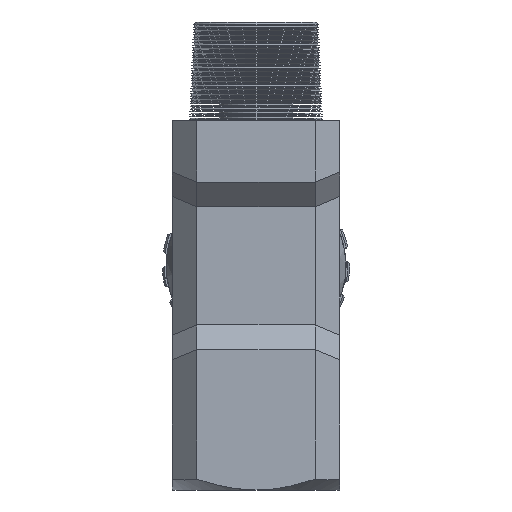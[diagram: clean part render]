
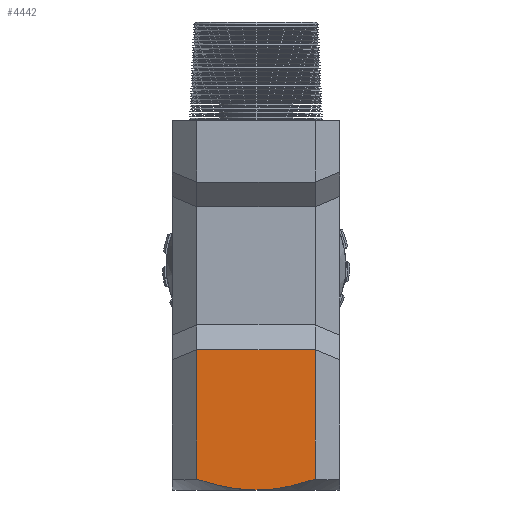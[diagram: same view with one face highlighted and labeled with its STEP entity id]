
A CAD part, front view. The second image highlights one B-rep face of the part: STEP entity #4442.
In plain terms, the highlighted planar face has unit normal (0, -1, 0).
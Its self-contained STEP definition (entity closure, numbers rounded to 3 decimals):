
#1416 = VECTOR ( 'NONE', #13933, 1000. ) ;
#1756 = AXIS2_PLACEMENT_3D ( 'NONE', #9916, #25721, #12190 ) ;
#2096 = CARTESIAN_POINT ( 'NONE',  ( -12., -17., -43.301 ) ) ;
#3361 = VERTEX_POINT ( 'NONE', #22191 ) ;
#4183 = VECTOR ( 'NONE', #25564, 1000. ) ;
#4273 = CARTESIAN_POINT ( 'NONE',  ( 0., -17., -45.5 ) ) ;
#4416 = CARTESIAN_POINT ( 'NONE',  ( 12., -17., -43.301 ) ) ;
#4442 = ADVANCED_FACE ( 'NONE', ( #17269 ), #7550, .F. ) ;
#6024 = CARTESIAN_POINT ( 'NONE',  ( 5.098, -17., -45.083 ) ) ;
#6809 = VERTEX_POINT ( 'NONE', #22221 ) ;
#7517 = CARTESIAN_POINT ( 'NONE',  ( -17., -17., -17. ) ) ;
#7550 = PLANE ( 'NONE',  #1756 ) ;
#8296 = CARTESIAN_POINT ( 'NONE',  ( 2.566, -17., -45.393 ) ) ;
#9258 = ORIENTED_EDGE ( 'NONE', *, *, #26090, .T. ) ;
#9485 = CARTESIAN_POINT ( 'NONE',  ( -12., -17., 49.5 ) ) ;
#9916 = CARTESIAN_POINT ( 'NONE',  ( -17., -17., 49.5 ) ) ;
#10195 = CARTESIAN_POINT ( 'NONE',  ( 0., -17., -45.5 ) ) ;
#10325 = EDGE_CURVE ( 'NONE', #6809, #3361, #26106, .T. ) ;
#10590 = CARTESIAN_POINT ( 'NONE',  ( 1.029, -17., -45.486 ) ) ;
#11039 = CARTESIAN_POINT ( 'NONE',  ( -4.074, -17., -45.281 ) ) ;
#11092 = VECTOR ( 'NONE', #16663, 1000. ) ;
#11951 = CARTESIAN_POINT ( 'NONE',  ( 12., -17., -17. ) ) ;
#12190 = DIRECTION ( 'NONE',  ( 0., 0., 1. ) ) ;
#12514 = ORIENTED_EDGE ( 'NONE', *, *, #14953, .F. ) ;
#12838 = CARTESIAN_POINT ( 'NONE',  ( 0., -17., -45.5 ) ) ;
#13350 = CARTESIAN_POINT ( 'NONE',  ( -8.069, -17., -44.462 ) ) ;
#13917 = ORIENTED_EDGE ( 'NONE', *, *, #10325, .T. ) ;
#13933 = DIRECTION ( 'NONE',  ( 0., 0., -1. ) ) ;
#14361 = CARTESIAN_POINT ( 'NONE',  ( 12., -17., 49.5 ) ) ;
#14675 = EDGE_LOOP ( 'NONE', ( #12514, #9258, #19927, #13917, #22768 ) ) ;
#14953 = EDGE_CURVE ( 'NONE', #17517, #28684, #23731, .T. ) ;
#15485 = LINE ( 'NONE', #7517, #4183 ) ;
#15629 = CARTESIAN_POINT ( 'NONE',  ( -11.03, -17., -43.624 ) ) ;
#16530 = VERTEX_POINT ( 'NONE', #11951 ) ;
#16663 = DIRECTION ( 'NONE',  ( 0., 0., 1. ) ) ;
#17140 = LINE ( 'NONE', #14361, #11092 ) ;
#17269 = FACE_OUTER_BOUND ( 'NONE', #14675, .T. ) ;
#17303 = CARTESIAN_POINT ( 'NONE',  ( 8.092, -17., -44.499 ) ) ;
#17517 = VERTEX_POINT ( 'NONE', #4416 ) ;
#17764 = CARTESIAN_POINT ( 'NONE',  ( -2.052, -17., -45.5 ) ) ;
#19409 = EDGE_CURVE ( 'NONE', #28684, #3361, #27366, .T. ) ;
#19551 = CARTESIAN_POINT ( 'NONE',  ( 12., -17., -43.301 ) ) ;
#19927 = ORIENTED_EDGE ( 'NONE', *, *, #28569, .F. ) ;
#21870 = CARTESIAN_POINT ( 'NONE',  ( 4.091, -17., -45.236 ) ) ;
#22191 = CARTESIAN_POINT ( 'NONE',  ( -12., -17., -43.301 ) ) ;
#22221 = CARTESIAN_POINT ( 'NONE',  ( -12., -17., -17. ) ) ;
#22768 = ORIENTED_EDGE ( 'NONE', *, *, #19409, .F. ) ;
#23731 = B_SPLINE_CURVE_WITH_KNOTS ( 'NONE', 3,
 ( #19551, #26249, #17303, #6024, #21870, #8296, #24090, #10590, #26352, #12838 ),
 .UNSPECIFIED., .F., .F.,
 ( 4, 2, 2, 2, 4 ),
 ( 0.054, 0.06, 0.063, 0.064, 0.066 ),
 .UNSPECIFIED. ) ;
#24090 = CARTESIAN_POINT ( 'NONE',  ( 2.056, -17., -45.433 ) ) ;
#25564 = DIRECTION ( 'NONE',  ( 1., 0., 0. ) ) ;
#25721 = DIRECTION ( 'NONE',  ( 0., 1., 0. ) ) ;
#26090 = EDGE_CURVE ( 'NONE', #17517, #16530, #17140, .T. ) ;
#26106 = LINE ( 'NONE', #9485, #1416 ) ;
#26249 = CARTESIAN_POINT ( 'NONE',  ( 10.056, -17., -43.948 ) ) ;
#26352 = CARTESIAN_POINT ( 'NONE',  ( 0.513, -17., -45.5 ) ) ;
#26835 = CARTESIAN_POINT ( 'NONE',  ( -7.074, -17., -44.698 ) ) ;
#27366 = B_SPLINE_CURVE_WITH_KNOTS ( 'NONE', 3,
 ( #4273, #17764, #11039, #26835, #13350, #29089, #15629, #2096 ),
 .UNSPECIFIED., .F., .F.,
 ( 4, 2, 2, 4 ),
 ( 0.066, 0.072, 0.075, 0.078 ),
 .UNSPECIFIED. ) ;
#28569 = EDGE_CURVE ( 'NONE', #6809, #16530, #15485, .T. ) ;
#28684 = VERTEX_POINT ( 'NONE', #10195 ) ;
#29089 = CARTESIAN_POINT ( 'NONE',  ( -10.05, -17., -43.924 ) ) ;
